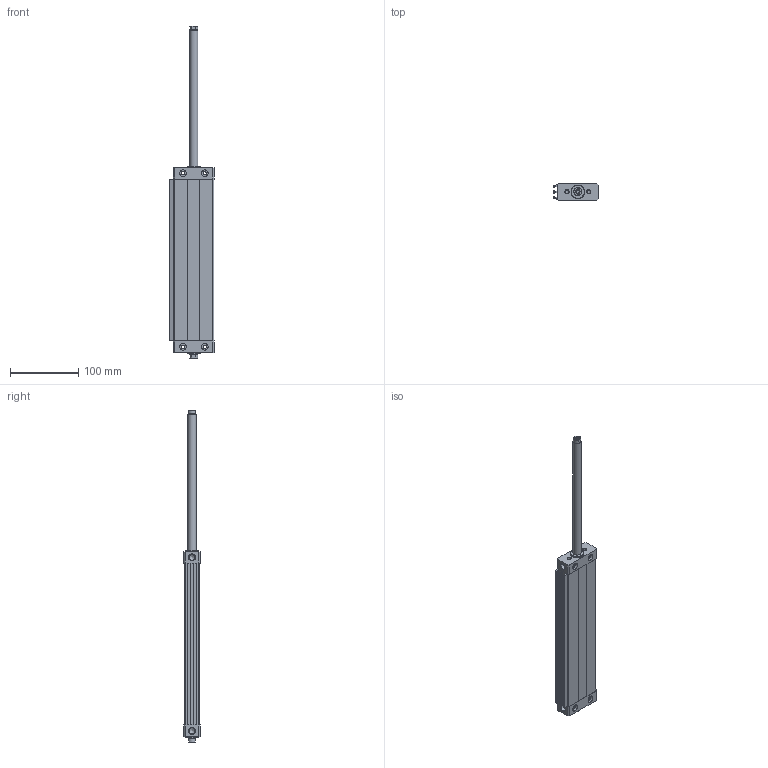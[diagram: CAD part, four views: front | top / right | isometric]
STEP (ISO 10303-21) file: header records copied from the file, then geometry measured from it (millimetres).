
FILE_DESCRIPTION((''),'2;1');
FILE_NAME('I:\Area Tecnica\Disegni\VARIE-3D\Componenti\1370 - CPO\1370_##_0000_03\1370_32_0200_03-01.iam.step','2010-12-16T10:55:24',(''),(''),'Autodesk Inventor 2011','Autodesk Inventor 2011','');
FILE_SCHEMA(('AUTOMOTIVE_DESIGN { 1 0 10303 214 1 1 1 1 }'));
Length unit declared in the file: millimetre
Products named in the file (5): 1370_32_0200_03-01; 1370_05_32_0000; 1370_06_32_0200; 1370_08_32_0000; 1370_3_32_0200
Assembly tree (4 placements, depth 2):
  1370_32_0200_03-01
    1370_05_32_0000
    1370_06_32_0200
    1370_08_32_0000
    1370_3_32_0200
Bounding box: 65.5 x 24 x 488 mm (x, y, z)
Volume: 262201.6 mm3; surface area: 116961.9 mm2
Topology: 4 solids, 4 shells, 164 faces, 392 edges, 250 vertices
Faces by surface type: plane 92, cylinder 48, cone 24
Full cylindrical faces by diameter (mm): 5 x12, 6.3 x2, 8.7 x2, 10 x8, 11.5 x2, 12 x4, 20 x2
Entity records: 4780 total; most frequent: DIRECTION 792, CARTESIAN_POINT 787, ORIENTED_EDGE 660, EDGE_CURVE 330, AXIS2_PLACEMENT_3D 297, EDGE_LOOP 252, VERTEX_POINT 240, VECTOR 198
